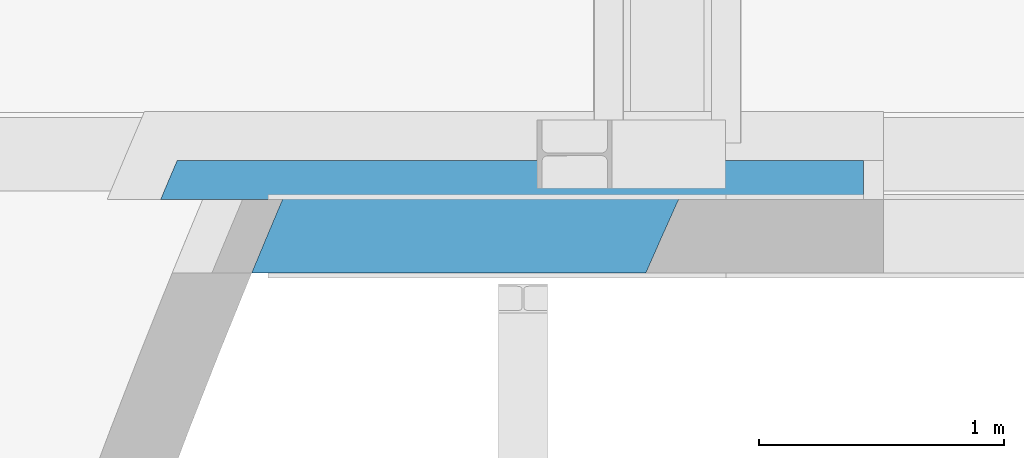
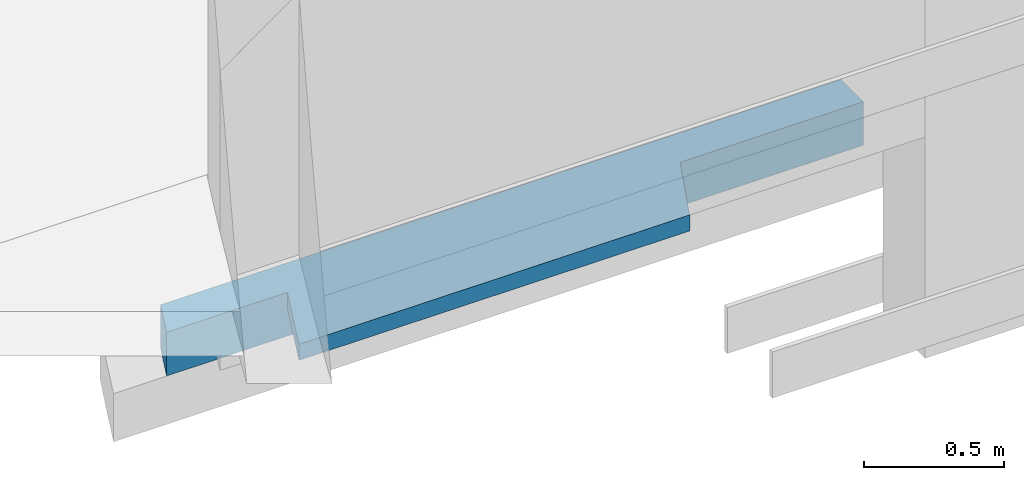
# One storey, part 33 of 38: 1 beam.
"""IFC2X3 building model written with IfcOpenShell, lengths in millimetres."""

from ifc_helpers import new_model, entity, si_unit, converted_unit, derived_unit, direction, frame, origin, place, context, subcontext, project, spatial, faceted_brep, material, type_object, element, save


model = new_model("IFC2X3")

# Units and contexts
model_context = context("Model", 3, precision=0.01, world=origin(), true_north=direction((6.12303176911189e-17, 1.0)))
body_context = subcontext(model_context, "Body", "Model", "MODEL_VIEW")
ifc_project = project(units=[si_unit("LENGTHUNIT", "METRE", prefix="MILLI"), si_unit("AREAUNIT", "SQUARE_METRE", prefix="MILLI"), si_unit("VOLUMEUNIT", "CUBIC_METRE"), converted_unit("PLANEANGLEUNIT", "DEGREE", entity("IfcRatioMeasure", 0.0174532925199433), si_unit("PLANEANGLEUNIT", "RADIAN"), dimensions=[0, 0, 0, 0, 0, 0, 0]), si_unit("MASSUNIT", "GRAM", prefix="KILO"), derived_unit("MASSDENSITYUNIT", [(si_unit("MASSUNIT", "GRAM", prefix="KILO"), 1), (si_unit("LENGTHUNIT", "METRE"), -3)]), derived_unit("MOMENTOFINERTIAUNIT", [(si_unit("LENGTHUNIT", "METRE"), 4)]), si_unit("TIMEUNIT", "SECOND"), si_unit("FREQUENCYUNIT", "HERTZ"), si_unit("THERMODYNAMICTEMPERATUREUNIT", "DEGREE_CELSIUS"), derived_unit("THERMALTRANSMITTANCEUNIT", [(si_unit("MASSUNIT", "GRAM", prefix="KILO"), 1), (si_unit("THERMODYNAMICTEMPERATUREUNIT", "KELVIN"), -1), (si_unit("TIMEUNIT", "SECOND"), -3)]), derived_unit("VOLUMETRICFLOWRATEUNIT", [(si_unit("LENGTHUNIT", "METRE"), 3), (si_unit("TIMEUNIT", "SECOND"), -1)]), si_unit("ELECTRICCURRENTUNIT", "AMPERE"), si_unit("ELECTRICVOLTAGEUNIT", "VOLT"), si_unit("POWERUNIT", "WATT"), si_unit("FORCEUNIT", "NEWTON", prefix="KILO"), si_unit("ILLUMINANCEUNIT", "LUX"), si_unit("LUMINOUSFLUXUNIT", "LUMEN"), si_unit("LUMINOUSINTENSITYUNIT", "CANDELA"), derived_unit("USERDEFINED", [(si_unit("MASSUNIT", "GRAM", prefix="KILO"), -1), (si_unit("LENGTHUNIT", "METRE"), -2), (si_unit("TIMEUNIT", "SECOND"), 3), (si_unit("LUMINOUSFLUXUNIT", "LUMEN"), 1)]), derived_unit("LINEARVELOCITYUNIT", [(si_unit("LENGTHUNIT", "METRE"), 1), (si_unit("TIMEUNIT", "SECOND"), -1)]), si_unit("PRESSUREUNIT", "PASCAL"), derived_unit("USERDEFINED", [(si_unit("LENGTHUNIT", "METRE"), -2), (si_unit("MASSUNIT", "GRAM", prefix="KILO"), 1), (si_unit("TIMEUNIT", "SECOND"), -2)]), derived_unit("LINEARFORCEUNIT", [(si_unit("MASSUNIT", "GRAM", prefix="KILO"), 1), (si_unit("LENGTHUNIT", "METRE"), 1), (si_unit("TIMEUNIT", "SECOND"), -2), (si_unit("LENGTHUNIT", "METRE"), -1)]), derived_unit("PLANARFORCEUNIT", [(si_unit("MASSUNIT", "GRAM", prefix="KILO"), 1), (si_unit("LENGTHUNIT", "METRE"), 1), (si_unit("TIMEUNIT", "SECOND"), -2), (si_unit("LENGTHUNIT", "METRE"), -2)])], contexts=[model_context])

# Site, building, storey
site_placement = place(None, origin())
site = spatial("IfcSite", under=ifc_project, at=site_placement, Name="Theater aan de Parade", CompositionType="ELEMENT")
building_placement = place(site_placement, origin())
building = spatial("IfcBuilding", under=site, at=building_placement, Name="Theater aan de Parade", CompositionType="ELEMENT")
storey_placement = place(building_placement, frame((0.0, 0.0, 12480.0)))
storey = spatial("IfcBuildingStorey", under=building, at=storey_placement, Name="03 derde verdieping", CompositionType="ELEMENT", Elevation=12480.0)

# Beam
ifc_material = material(Name="00_PBT_MAT_beton t.p.g.")
beam_type = type_object("IfcBeamType", Name="28_PBT_SF_betonbalk:460x400_bestaand", PredefinedType="NOTDEFINED")
beam_placement = place(storey_placement, frame((44129.649440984, 43908.4047277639, -590.0)))
element("IfcBeam", 1, at=beam_placement, inside=storey, type_object=beam_type, material=ifc_material, Name="28_PBT_SF_betonbalk:460x400_bestaand", ObjectType="28_PBT_SF_betonbalk:460x400_bestaand", context=body_context, shape_type="Brep", body=[
    faceted_brep([(2869.21676450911, 461.595272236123, 190.0), (2869.21676450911, 461.595272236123, 0.0), (69.287075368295, 461.595272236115, 0.0), (69.2870753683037, 461.595272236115, 190.0), (2869.21676450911, 301.595272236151, 190.0), (35.3270864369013, 381.643181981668, 190.0), (1.59527223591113, 301.595272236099, 190.0), (173.038456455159, 301.595272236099, 190.0), (498.787085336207, 301.595272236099, 190.0), (435.498225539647, 151.765564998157, 190.0), (373.021797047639, 1.59527223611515, 190.0), (1981.33719330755, 1.59527223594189, 190.0), (2047.67543115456, 151.787267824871, 190.0), (2114.87631771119, 301.595272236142, 190.0), (1981.33719330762, 1.59527223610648, 120.0), (373.021797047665, 1.59527223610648, 120.0), (2114.87631771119, 301.595272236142, 120.0), (498.787085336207, 301.595272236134, 120.0), (1.59527223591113, 301.595272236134, 0.0), (2869.21676450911, 301.595272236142, 0.0), (35.327086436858, 381.643181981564, 0.0), (2047.67543115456, 151.787267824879, 120.0), (435.497336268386, 151.763443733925, 120.0)], [[[0, 1, 2, 3]], [[4, 0, 3, 5, 6, 7, 8, 9, 10, 11, 12, 13]], [[14, 11, 10, 15]], [[4, 13, 16, 17, 8, 7, 6, 18, 19]], [[6, 5, 20, 18]], [[20, 5, 3, 2]], [[4, 19, 1, 0]], [[2, 1, 19, 18, 20]], [[12, 21, 16, 13]], [[11, 14, 21, 12]], [[21, 14, 15, 22, 17, 16]], [[10, 22, 15]], [[22, 10, 9]], [[9, 8, 17]], [[9, 17, 22]]]),
])

save(model, "model.ifc")
